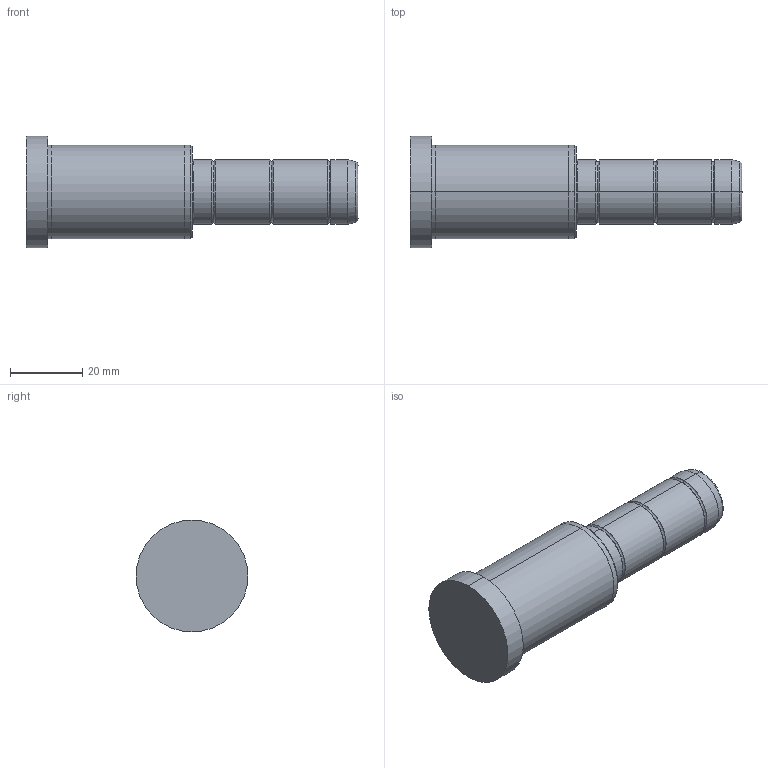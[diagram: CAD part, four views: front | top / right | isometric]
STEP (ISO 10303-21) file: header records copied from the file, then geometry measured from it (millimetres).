
FILE_DESCRIPTION( ( 'STEP AP203' ), '1' );
FILE_NAME( 'C:/Projects/D02 - 18x46x46.step', '2003-01-04T13:31:24', ( ' ' ), ( ' ' ), 'XStep 1.0', ' ', ' ' );
FILE_SCHEMA( ( 'CONFIG_CONTROL_DESIGN' ) );
Length unit declared in the file: metre
Products named in the file (1): 1
Bounding box: 92 x 31 x 31 mm (x, y, z)
Volume: 37357.6 mm3; surface area: 7960.3 mm2
Topology: 1 solids, 1 shells, 42 faces, 82 edges, 46 vertices
Faces by surface type: bspline 22, revolution 20
Entity records: 1325 total; most frequent: CARTESIAN_POINT 517, ORIENTED_EDGE 164, DIRECTION 134, EDGE_CURVE 82, AXIS2_PLACEMENT_3D 47, EDGE_LOOP 46, VERTEX_POINT 46, CIRCLE 46
